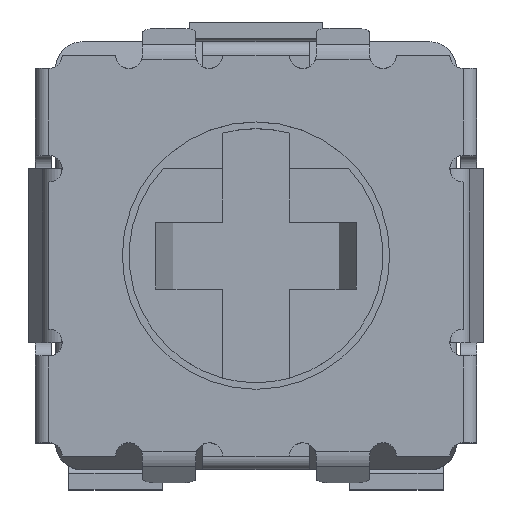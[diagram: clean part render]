
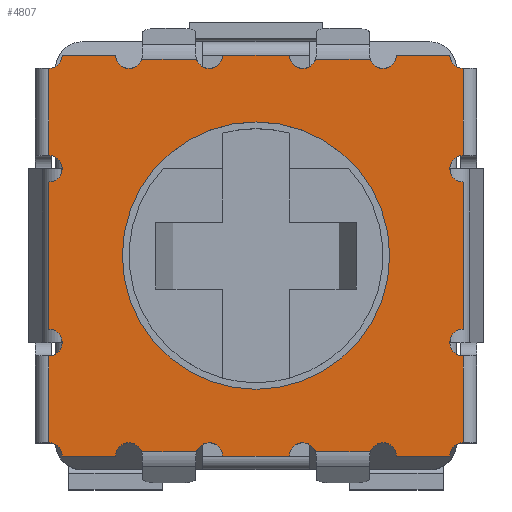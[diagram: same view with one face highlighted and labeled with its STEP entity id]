
A CAD part, top view. The second image highlights one B-rep face of the part: STEP entity #4807.
In plain terms, the highlighted planar face has unit normal (0, 0, 1).
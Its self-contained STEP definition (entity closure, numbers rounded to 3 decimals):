
#153=LINE('',#6528,#546);
#154=LINE('',#6533,#547);
#155=LINE('',#6537,#548);
#156=LINE('',#6541,#549);
#157=LINE('',#6545,#550);
#158=LINE('',#6549,#551);
#159=LINE('',#6553,#552);
#160=LINE('',#6557,#553);
#161=LINE('',#6561,#554);
#162=LINE('',#6565,#555);
#163=LINE('',#6569,#556);
#164=LINE('',#6573,#557);
#165=LINE('',#6577,#558);
#166=LINE('',#6581,#559);
#167=LINE('',#6585,#560);
#168=LINE('',#6589,#561);
#546=VECTOR('',#5424,1000.);
#547=VECTOR('',#5427,1000.);
#548=VECTOR('',#5430,1000.);
#549=VECTOR('',#5433,1000.);
#550=VECTOR('',#5436,1000.);
#551=VECTOR('',#5439,1000.);
#552=VECTOR('',#5442,1000.);
#553=VECTOR('',#5445,1000.);
#554=VECTOR('',#5448,1000.);
#555=VECTOR('',#5451,1000.);
#556=VECTOR('',#5454,1000.);
#557=VECTOR('',#5457,1000.);
#558=VECTOR('',#5460,1000.);
#559=VECTOR('',#5463,1000.);
#560=VECTOR('',#5466,1000.);
#561=VECTOR('',#5469,1000.);
#956=ORIENTED_EDGE('',*,*,#2056,.F.);
#957=ORIENTED_EDGE('',*,*,#2057,.F.);
#958=ORIENTED_EDGE('',*,*,#2058,.T.);
#959=ORIENTED_EDGE('',*,*,#2059,.F.);
#960=ORIENTED_EDGE('',*,*,#2060,.F.);
#961=ORIENTED_EDGE('',*,*,#2061,.F.);
#962=ORIENTED_EDGE('',*,*,#2062,.T.);
#963=ORIENTED_EDGE('',*,*,#2063,.F.);
#964=ORIENTED_EDGE('',*,*,#2064,.F.);
#965=ORIENTED_EDGE('',*,*,#2065,.F.);
#966=ORIENTED_EDGE('',*,*,#2066,.T.);
#967=ORIENTED_EDGE('',*,*,#2067,.F.);
#968=ORIENTED_EDGE('',*,*,#2068,.T.);
#969=ORIENTED_EDGE('',*,*,#2069,.F.);
#970=ORIENTED_EDGE('',*,*,#2070,.T.);
#971=ORIENTED_EDGE('',*,*,#2071,.F.);
#972=ORIENTED_EDGE('',*,*,#2072,.T.);
#973=ORIENTED_EDGE('',*,*,#2073,.F.);
#974=ORIENTED_EDGE('',*,*,#2074,.T.);
#975=ORIENTED_EDGE('',*,*,#2075,.F.);
#976=ORIENTED_EDGE('',*,*,#2076,.T.);
#977=ORIENTED_EDGE('',*,*,#2077,.F.);
#978=ORIENTED_EDGE('',*,*,#2078,.T.);
#979=ORIENTED_EDGE('',*,*,#2079,.F.);
#980=ORIENTED_EDGE('',*,*,#2080,.T.);
#981=ORIENTED_EDGE('',*,*,#2081,.F.);
#982=ORIENTED_EDGE('',*,*,#2082,.T.);
#983=ORIENTED_EDGE('',*,*,#2083,.F.);
#984=ORIENTED_EDGE('',*,*,#2084,.F.);
#985=ORIENTED_EDGE('',*,*,#2085,.F.);
#986=ORIENTED_EDGE('',*,*,#2086,.T.);
#987=ORIENTED_EDGE('',*,*,#2087,.F.);
#988=ORIENTED_EDGE('',*,*,#2088,.F.);
#2056=EDGE_CURVE('',#2606,#2607,#153,.T.);
#2057=EDGE_CURVE('',#2608,#2606,#2933,.T.);
#2058=EDGE_CURVE('',#2608,#2609,#154,.T.);
#2059=EDGE_CURVE('',#2610,#2609,#2934,.T.);
#2060=EDGE_CURVE('',#2611,#2610,#155,.T.);
#2061=EDGE_CURVE('',#2612,#2611,#2935,.T.);
#2062=EDGE_CURVE('',#2612,#2613,#156,.T.);
#2063=EDGE_CURVE('',#2614,#2613,#2936,.T.);
#2064=EDGE_CURVE('',#2615,#2614,#157,.T.);
#2065=EDGE_CURVE('',#2616,#2615,#2937,.T.);
#2066=EDGE_CURVE('',#2616,#2617,#158,.T.);
#2067=EDGE_CURVE('',#2618,#2617,#2938,.T.);
#2068=EDGE_CURVE('',#2618,#2619,#159,.T.);
#2069=EDGE_CURVE('',#2620,#2619,#2939,.T.);
#2070=EDGE_CURVE('',#2620,#2621,#160,.T.);
#2071=EDGE_CURVE('',#2622,#2621,#2940,.T.);
#2072=EDGE_CURVE('',#2622,#2623,#161,.T.);
#2073=EDGE_CURVE('',#2624,#2623,#2941,.T.);
#2074=EDGE_CURVE('',#2624,#2625,#162,.T.);
#2075=EDGE_CURVE('',#2626,#2625,#2942,.T.);
#2076=EDGE_CURVE('',#2626,#2627,#163,.T.);
#2077=EDGE_CURVE('',#2628,#2627,#2943,.T.);
#2078=EDGE_CURVE('',#2628,#2629,#164,.T.);
#2079=EDGE_CURVE('',#2630,#2629,#2944,.T.);
#2080=EDGE_CURVE('',#2630,#2631,#165,.T.);
#2081=EDGE_CURVE('',#2632,#2631,#2945,.T.);
#2082=EDGE_CURVE('',#2632,#2633,#166,.T.);
#2083=EDGE_CURVE('',#2634,#2633,#2946,.T.);
#2084=EDGE_CURVE('',#2635,#2634,#167,.T.);
#2085=EDGE_CURVE('',#2636,#2635,#2947,.T.);
#2086=EDGE_CURVE('',#2636,#2637,#168,.T.);
#2087=EDGE_CURVE('',#2607,#2637,#2948,.T.);
#2088=EDGE_CURVE('',#2638,#2638,#2949,.T.);
#2606=VERTEX_POINT('',#6529);
#2607=VERTEX_POINT('',#6530);
#2608=VERTEX_POINT('',#6532);
#2609=VERTEX_POINT('',#6534);
#2610=VERTEX_POINT('',#6536);
#2611=VERTEX_POINT('',#6538);
#2612=VERTEX_POINT('',#6540);
#2613=VERTEX_POINT('',#6542);
#2614=VERTEX_POINT('',#6544);
#2615=VERTEX_POINT('',#6546);
#2616=VERTEX_POINT('',#6548);
#2617=VERTEX_POINT('',#6550);
#2618=VERTEX_POINT('',#6552);
#2619=VERTEX_POINT('',#6554);
#2620=VERTEX_POINT('',#6556);
#2621=VERTEX_POINT('',#6558);
#2622=VERTEX_POINT('',#6560);
#2623=VERTEX_POINT('',#6562);
#2624=VERTEX_POINT('',#6564);
#2625=VERTEX_POINT('',#6566);
#2626=VERTEX_POINT('',#6568);
#2627=VERTEX_POINT('',#6570);
#2628=VERTEX_POINT('',#6572);
#2629=VERTEX_POINT('',#6574);
#2630=VERTEX_POINT('',#6576);
#2631=VERTEX_POINT('',#6578);
#2632=VERTEX_POINT('',#6580);
#2633=VERTEX_POINT('',#6582);
#2634=VERTEX_POINT('',#6584);
#2635=VERTEX_POINT('',#6586);
#2636=VERTEX_POINT('',#6588);
#2637=VERTEX_POINT('',#6590);
#2638=VERTEX_POINT('',#6593);
#2933=CIRCLE('',#5031,0.1);
#2934=CIRCLE('',#5032,0.1);
#2935=CIRCLE('',#5033,0.1);
#2936=CIRCLE('',#5034,0.1);
#2937=CIRCLE('',#5035,0.1);
#2938=CIRCLE('',#5036,0.1);
#2939=CIRCLE('',#5037,0.1);
#2940=CIRCLE('',#5038,0.1);
#2941=CIRCLE('',#5039,0.1);
#2942=CIRCLE('',#5040,0.1);
#2943=CIRCLE('',#5041,0.1);
#2944=CIRCLE('',#5042,0.1);
#2945=CIRCLE('',#5043,0.1);
#2946=CIRCLE('',#5044,0.1);
#2947=CIRCLE('',#5045,0.1);
#2948=CIRCLE('',#5046,0.1);
#2949=CIRCLE('',#5047,1.);
#3053=EDGE_LOOP('',(#956,#957,#958,#959,#960,#961,#962,#963,#964,#965,#966,
#967,#968,#969,#970,#971,#972,#973,#974,#975,#976,#977,#978,#979,#980,#981,
#982,#983,#984,#985,#986,#987));
#3054=EDGE_LOOP('',(#988));
#3256=FACE_BOUND('',#3053,.T.);
#3257=FACE_BOUND('',#3054,.T.);
#3458=PLANE('',#5030);
#4807=ADVANCED_FACE('',(#3256,#3257),#3458,.T.);
#5030=AXIS2_PLACEMENT_3D('',#6527,#5422,#5423);
#5031=AXIS2_PLACEMENT_3D('',#6531,#5425,#5426);
#5032=AXIS2_PLACEMENT_3D('',#6535,#5428,#5429);
#5033=AXIS2_PLACEMENT_3D('',#6539,#5431,#5432);
#5034=AXIS2_PLACEMENT_3D('',#6543,#5434,#5435);
#5035=AXIS2_PLACEMENT_3D('',#6547,#5437,#5438);
#5036=AXIS2_PLACEMENT_3D('',#6551,#5440,#5441);
#5037=AXIS2_PLACEMENT_3D('',#6555,#5443,#5444);
#5038=AXIS2_PLACEMENT_3D('',#6559,#5446,#5447);
#5039=AXIS2_PLACEMENT_3D('',#6563,#5449,#5450);
#5040=AXIS2_PLACEMENT_3D('',#6567,#5452,#5453);
#5041=AXIS2_PLACEMENT_3D('',#6571,#5455,#5456);
#5042=AXIS2_PLACEMENT_3D('',#6575,#5458,#5459);
#5043=AXIS2_PLACEMENT_3D('',#6579,#5461,#5462);
#5044=AXIS2_PLACEMENT_3D('',#6583,#5464,#5465);
#5045=AXIS2_PLACEMENT_3D('',#6587,#5467,#5468);
#5046=AXIS2_PLACEMENT_3D('',#6591,#5470,#5471);
#5047=AXIS2_PLACEMENT_3D('',#6592,#5472,#5473);
#5422=DIRECTION('',(0.,0.,1.));
#5423=DIRECTION('',(1.,0.,0.));
#5424=DIRECTION('',(-1.,0.,0.));
#5425=DIRECTION('',(0.,0.,1.));
#5426=DIRECTION('',(1.,0.,0.));
#5427=DIRECTION('',(1.,0.,0.));
#5428=DIRECTION('',(0.,0.,1.));
#5429=DIRECTION('',(1.,0.,0.));
#5430=DIRECTION('',(0.,-1.,0.));
#5431=DIRECTION('',(0.,0.,1.));
#5432=DIRECTION('',(1.,0.,0.));
#5433=DIRECTION('',(0.,1.,0.));
#5434=DIRECTION('',(0.,0.,1.));
#5435=DIRECTION('',(1.,0.,0.));
#5436=DIRECTION('',(0.,-1.,0.));
#5437=DIRECTION('',(0.,0.,1.));
#5438=DIRECTION('',(1.,0.,0.));
#5439=DIRECTION('',(-1.,0.,0.));
#5440=DIRECTION('',(0.,0.,1.));
#5441=DIRECTION('',(1.,0.,0.));
#5442=DIRECTION('',(-1.,0.,0.));
#5443=DIRECTION('',(0.,0.,1.));
#5444=DIRECTION('',(1.,0.,0.));
#5445=DIRECTION('',(-1.,0.,0.));
#5446=DIRECTION('',(0.,0.,1.));
#5447=DIRECTION('',(1.,0.,0.));
#5448=DIRECTION('',(-1.,0.,0.));
#5449=DIRECTION('',(0.,0.,1.));
#5450=DIRECTION('',(1.,0.,0.));
#5451=DIRECTION('',(-1.,0.,0.));
#5452=DIRECTION('',(0.,0.,1.));
#5453=DIRECTION('',(1.,0.,0.));
#5454=DIRECTION('',(0.,-1.,0.));
#5455=DIRECTION('',(0.,0.,1.));
#5456=DIRECTION('',(1.,0.,0.));
#5457=DIRECTION('',(0.,-1.,0.));
#5458=DIRECTION('',(0.,0.,1.));
#5459=DIRECTION('',(1.,0.,0.));
#5460=DIRECTION('',(0.,-1.,0.));
#5461=DIRECTION('',(0.,0.,1.));
#5462=DIRECTION('',(1.,0.,0.));
#5463=DIRECTION('',(1.,0.,0.));
#5464=DIRECTION('',(0.,0.,1.));
#5465=DIRECTION('',(1.,0.,0.));
#5466=DIRECTION('',(-1.,0.,0.));
#5467=DIRECTION('',(0.,0.,1.));
#5468=DIRECTION('',(1.,0.,0.));
#5469=DIRECTION('',(1.,0.,0.));
#5470=DIRECTION('',(0.,0.,1.));
#5471=DIRECTION('',(1.,0.,0.));
#5472=DIRECTION('',(0.,0.,1.));
#5473=DIRECTION('',(1.,0.,0.));
#6527=CARTESIAN_POINT('',(-1.55,-1.5,2.));
#6528=CARTESIAN_POINT('',(0.95,-1.469,2.));
#6529=CARTESIAN_POINT('',(0.855,-1.469,2.));
#6530=CARTESIAN_POINT('',(0.445,-1.469,2.));
#6531=CARTESIAN_POINT('',(0.95,-1.5,2.));
#6532=CARTESIAN_POINT('',(1.05,-1.5,2.));
#6533=CARTESIAN_POINT('',(1.05,-1.5,2.));
#6534=CARTESIAN_POINT('',(1.45,-1.5,2.));
#6535=CARTESIAN_POINT('',(1.55,-1.5,2.));
#6536=CARTESIAN_POINT('',(1.55,-1.4,2.));
#6537=CARTESIAN_POINT('',(1.55,2.,2.));
#6538=CARTESIAN_POINT('',(1.55,-0.75,2.));
#6539=CARTESIAN_POINT('',(1.55,-0.65,2.));
#6540=CARTESIAN_POINT('',(1.55,-0.55,2.));
#6541=CARTESIAN_POINT('',(1.55,-0.55,2.));
#6542=CARTESIAN_POINT('',(1.55,0.55,2.));
#6543=CARTESIAN_POINT('',(1.55,0.65,2.));
#6544=CARTESIAN_POINT('',(1.55,0.75,2.));
#6545=CARTESIAN_POINT('',(1.55,2.,2.));
#6546=CARTESIAN_POINT('',(1.55,1.4,2.));
#6547=CARTESIAN_POINT('',(1.55,1.5,2.));
#6548=CARTESIAN_POINT('',(1.45,1.5,2.));
#6549=CARTESIAN_POINT('',(1.45,1.5,2.));
#6550=CARTESIAN_POINT('',(1.05,1.5,2.));
#6551=CARTESIAN_POINT('',(0.95,1.5,2.));
#6552=CARTESIAN_POINT('',(0.855,1.469,2.));
#6553=CARTESIAN_POINT('',(0.95,1.469,2.));
#6554=CARTESIAN_POINT('',(0.445,1.469,2.));
#6555=CARTESIAN_POINT('',(0.35,1.5,2.));
#6556=CARTESIAN_POINT('',(0.25,1.5,2.));
#6557=CARTESIAN_POINT('',(0.25,1.5,2.));
#6558=CARTESIAN_POINT('',(-0.25,1.5,2.));
#6559=CARTESIAN_POINT('',(-0.35,1.5,2.));
#6560=CARTESIAN_POINT('',(-0.445,1.469,2.));
#6561=CARTESIAN_POINT('',(-0.35,1.469,2.));
#6562=CARTESIAN_POINT('',(-0.855,1.469,2.));
#6563=CARTESIAN_POINT('',(-0.95,1.5,2.));
#6564=CARTESIAN_POINT('',(-1.05,1.5,2.));
#6565=CARTESIAN_POINT('',(-1.05,1.5,2.));
#6566=CARTESIAN_POINT('',(-1.45,1.5,2.));
#6567=CARTESIAN_POINT('',(-1.55,1.5,2.));
#6568=CARTESIAN_POINT('',(-1.55,1.4,2.));
#6569=CARTESIAN_POINT('',(-1.55,2.,2.));
#6570=CARTESIAN_POINT('',(-1.55,0.75,2.));
#6571=CARTESIAN_POINT('',(-1.55,0.65,2.));
#6572=CARTESIAN_POINT('',(-1.55,0.55,2.));
#6573=CARTESIAN_POINT('',(-1.55,0.55,2.));
#6574=CARTESIAN_POINT('',(-1.55,-0.55,2.));
#6575=CARTESIAN_POINT('',(-1.55,-0.65,2.));
#6576=CARTESIAN_POINT('',(-1.55,-0.75,2.));
#6577=CARTESIAN_POINT('',(-1.55,2.,2.));
#6578=CARTESIAN_POINT('',(-1.55,-1.4,2.));
#6579=CARTESIAN_POINT('',(-1.55,-1.5,2.));
#6580=CARTESIAN_POINT('',(-1.45,-1.5,2.));
#6581=CARTESIAN_POINT('',(-1.45,-1.5,2.));
#6582=CARTESIAN_POINT('',(-1.05,-1.5,2.));
#6583=CARTESIAN_POINT('',(-0.95,-1.5,2.));
#6584=CARTESIAN_POINT('',(-0.855,-1.469,2.));
#6585=CARTESIAN_POINT('',(-0.35,-1.469,2.));
#6586=CARTESIAN_POINT('',(-0.445,-1.469,2.));
#6587=CARTESIAN_POINT('',(-0.35,-1.5,2.));
#6588=CARTESIAN_POINT('',(-0.25,-1.5,2.));
#6589=CARTESIAN_POINT('',(-0.25,-1.5,2.));
#6590=CARTESIAN_POINT('',(0.25,-1.5,2.));
#6591=CARTESIAN_POINT('',(0.35,-1.5,2.));
#6592=CARTESIAN_POINT('',(0.,0.,2.));
#6593=CARTESIAN_POINT('',(1.,0.,2.));
